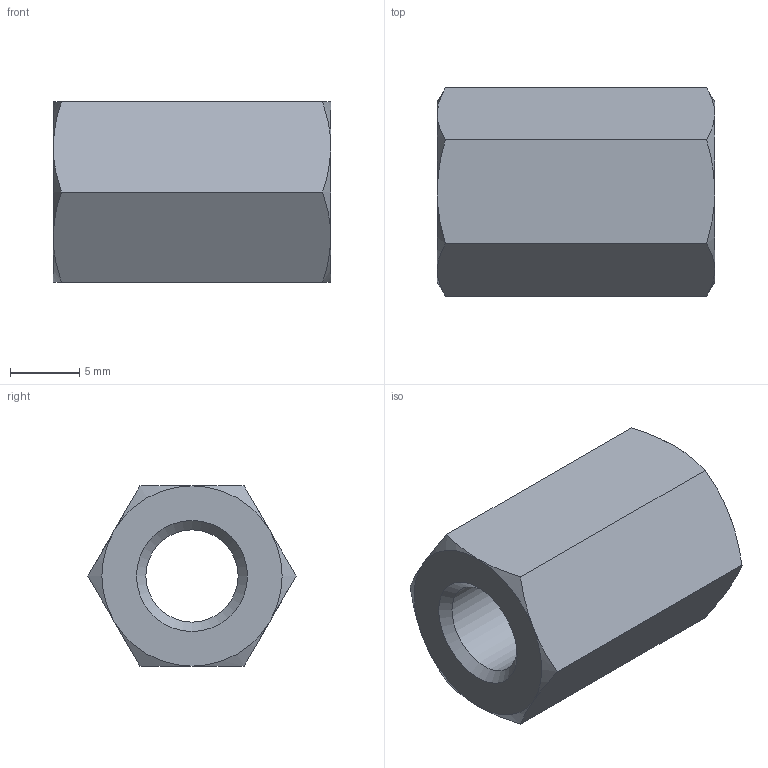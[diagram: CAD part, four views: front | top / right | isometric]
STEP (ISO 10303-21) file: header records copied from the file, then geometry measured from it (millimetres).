
FILE_DESCRIPTION( ( 'STEP AP203' ), '1' );
FILE_NAME( 'C:/Temp/Ganter_Step_05_03_2020/data/3_2/gn6220/gn6220_ni/Stainless Steel-Spacer GN 6220-NI-M8-20-A.stp', '2020-03-13T05:43:05', ( 'License CC BY-ND 4.0' ), ( 'CADENAS' ), ' ', 'PARTsolutions', ' ' );
FILE_SCHEMA( ( 'CONFIG_CONTROL_DESIGN' ) );
Length unit declared in the file: millimetre
Products named in the file (1): _Stainless Steel-Spacer GN 6220-NI-M8-20-A
Bounding box: 20 x 15.01 x 13 mm (x, y, z)
Volume: 2218.2 mm3; surface area: 1512.5 mm2
Topology: 1 solids, 1 shells, 23 faces, 49 edges, 28 vertices
Faces by surface type: cone 14, plane 8, cylinder 1
Full cylindrical faces by diameter (mm): 6.647 x1
Entity records: 728 total; most frequent: CARTESIAN_POINT 234, ORIENTED_EDGE 92, DIRECTION 86, EDGE_CURVE 46, AXIS2_PLACEMENT_3D 40, EDGE_LOOP 28, VERTEX_POINT 28, FACE_OUTER_BOUND 24
